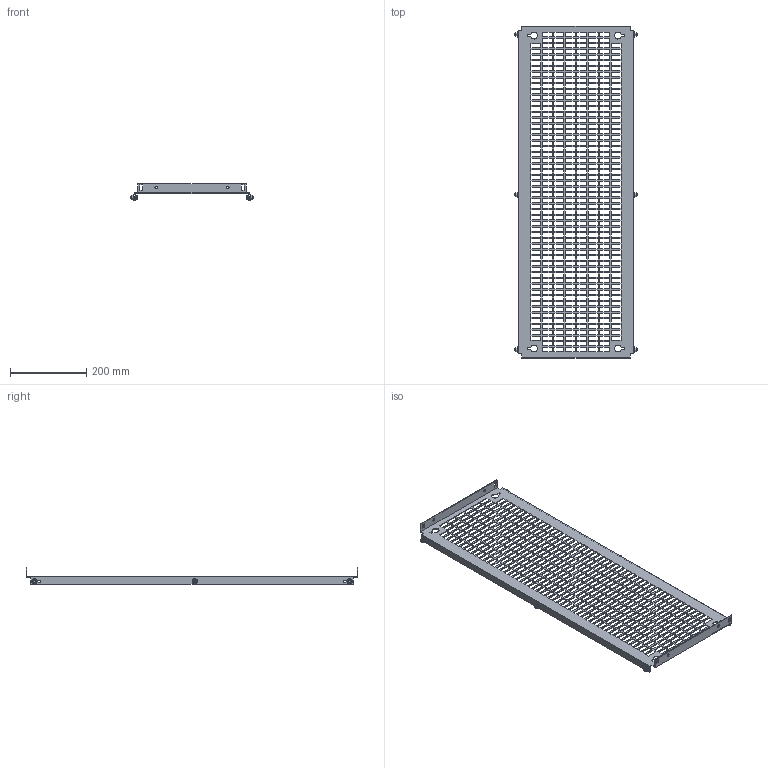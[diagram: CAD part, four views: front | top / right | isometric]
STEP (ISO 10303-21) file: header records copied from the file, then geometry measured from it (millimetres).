
FILE_DESCRIPTION(('Open CASCADE Model'),'2;1');
FILE_NAME('Open CASCADE Shape Model','2025-02-19T16:49:15',('Author'),( 'Open CASCADE'),'Open CASCADE STEP processor 7.8','Open CASCADE 7.8' ,'Unknown');
FILE_SCHEMA(('AUTOMOTIVE_DESIGN { 1 0 10303 214 1 1 1 1 }'));
Length unit declared in the file: millimetre
Products named in the file (4): Compound1; Solid1; Solid2; Solid3
Assembly tree (13 placements, depth 2):
  Compound1
    Solid1
    Solid2  x6
    Solid3  x6
Bounding box: 320 x 869 x 43 mm (x, y, z)
Volume: 358180.3 mm3; surface area: 428617.3 mm2
Topology: 13 solids, 13 shells, 2156 faces, 6211 edges, 4087 vertices
Faces by surface type: plane 1928, cone 102, bspline 72, cylinder 36, torus 18
Full cylindrical faces by diameter (mm): 5 x6, 6 x12, 7 x14
Entity records: 64662 total; most frequent: CARTESIAN_POINT 11907, ORIENTED_EDGE 11292, DIRECTION 9430, EDGE_CURVE 5646, LINE 5488, VECTOR 5488, VERTEX_POINT 3757, FACE_BOUND 2823
